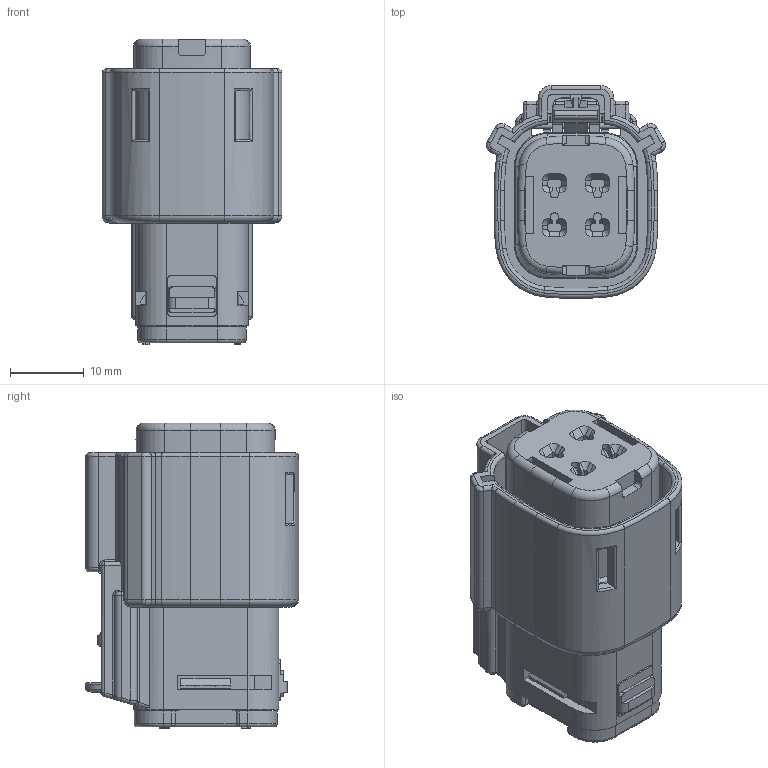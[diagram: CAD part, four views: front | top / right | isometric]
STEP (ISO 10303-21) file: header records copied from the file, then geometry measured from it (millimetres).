
FILE_DESCRIPTION((''),'2;1');
FILE_NAME('194180018','2014-09-17T',('ME'),(''),'PRO/ENGINEER BY PARAMETRIC TECHNOLOGY CORPORATION, 2011490','PRO/ENGINEER BY PARAMETRIC TECHNOLOGY CORPORATION, 2011490','');
FILE_SCHEMA(('CONFIG_CONTROL_DESIGN'));
Length unit declared in the file: millimetre
Products named in the file (1): 194180018
Bounding box: 24.36 x 28.87 x 41.47 mm (x, y, z)
Volume: 14041.2 mm3; surface area: 9293.3 mm2
Topology: 1 solids, 1 shells, 981 faces, 2707 edges, 1719 vertices
Faces by surface type: plane 501, cylinder 302, torus 88, bspline 38, cone 38, sphere 14
Entity records: 36257 total; most frequent: CARTESIAN_POINT 11519, ORIENTED_EDGE 5382, DIRECTION 4931, EDGE_CURVE 2691, VERTEX_POINT 1719, VECTOR 1689, LINE 1689, AXIS2_PLACEMENT_3D 1621
